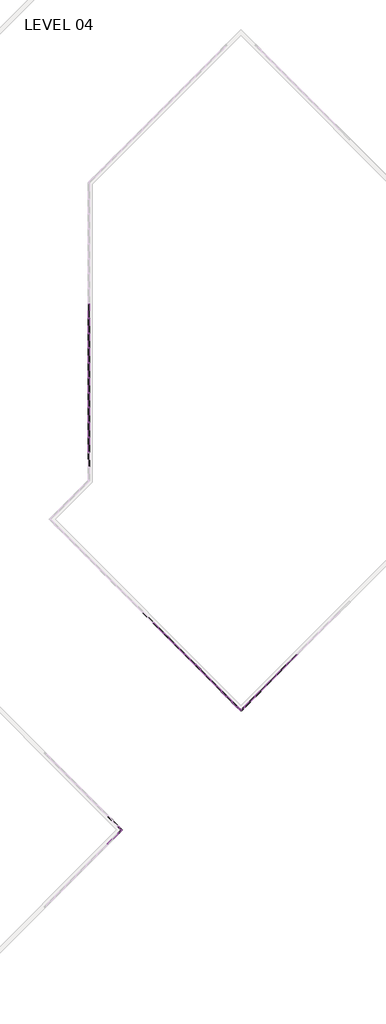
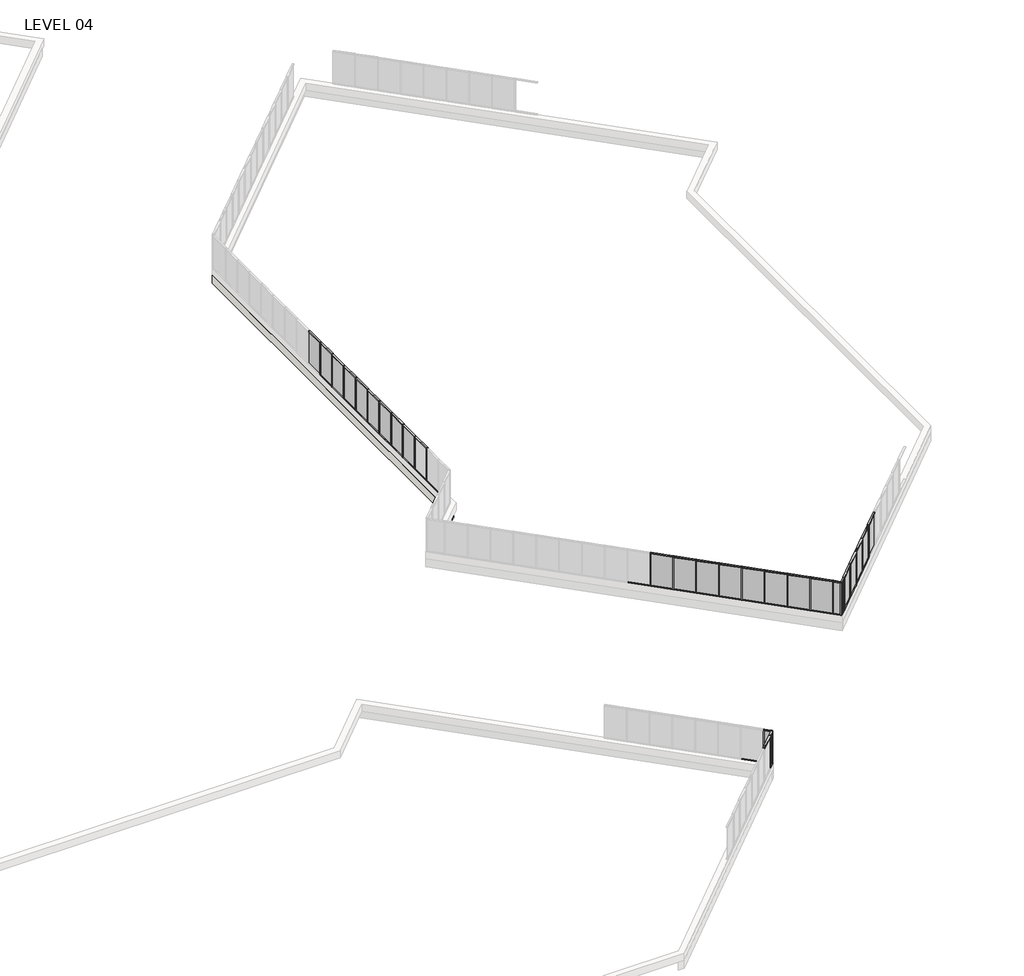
# One storey, part 10 of 17: 86 members, 26 plates, 1 wall.
"""IFC4 building model written with IfcOpenShell, lengths in millimetres."""

from ifc_helpers import new_model, si_unit, origin, place, context, project, spatial, faceted_brep, transform, mapped, element, save
from components import member_5247f267, member_e44af9ab, member_800970d4, member_ac5115e9, member_25b26a38, member_910c08c9, plate_c01932d8, plate_6d527a83, plate_67294edd

model = new_model("IFC4")

# Units and contexts
model_context = context("Model", 3, world=origin())
ifc_project = project(units=[si_unit("LENGTHUNIT", "METRE", prefix="MILLI")], contexts=[model_context])

# Site, building, storey
site = spatial("IfcSite", under=ifc_project)
building = spatial("IfcBuilding", under=site)
storey = spatial("IfcBuildingStorey", under=building, Name="LEVEL 04", Elevation=12052.3)

# Members
placement = place(None, origin())
member_shape = member_5247f267(model_context)
element("IfcMember", 1, ObjectType="Rectangular Mullion : 2\" x 4.5\" rectangular", at=placement, inside=storey, context=model_context, shape_type="MappedRepresentation", body=[
    mapped(member_shape, transform((64227.3404937, 10894.4485141, 12052.3), x_axis=(0.0, 0.0, -1.0), y_axis=(0.7071067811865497, 0.7071067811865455, 0.0), z_axis=(0.7071067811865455, -0.7071067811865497, 0.0))),
])
element("IfcMember", 2, ObjectType="Rectangular Mullion : 2\" x 4.5\" rectangular", at=placement, inside=storey, context=model_context, shape_type="MappedRepresentation", body=[
    mapped(member_shape, transform((64227.5191663, 10093.8459028, 14643.1), x_axis=(0.0, 0.0, 1.0), y_axis=(0.7071067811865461, -0.7071067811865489, 0.0), z_axis=(0.7071067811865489, 0.7071067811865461, 0.0))),
])
member_2_shape = member_e44af9ab(model_context)
element("IfcMember", 3, ObjectType="Rectangular Mullion : 2\" x 4.5\" rectangular", at=placement, inside=storey, context=model_context, shape_type="MappedRepresentation", body=[
    mapped(member_2_shape, transform((64245.4796786, 10111.8064151, 12052.3), x_axis=(0.7071067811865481, 0.7071067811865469, 0.0), y_axis=(0.7071067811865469, -0.7071067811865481, 0.0), z_axis=(0.0, 0.0, -1.0))),
])
element("IfcMember", 4, ObjectType="Rectangular Mullion : 2\" x 4.5\" rectangular", at=placement, inside=storey, context=model_context, shape_type="MappedRepresentation", body=[
    mapped(member_2_shape, transform((64245.3010059, 10876.4880018, 12052.3), x_axis=(-0.7071067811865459, 0.7071067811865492, 0.0), y_axis=(0.7071067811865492, 0.7071067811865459, 0.0), z_axis=(0.0, 0.0, -1.0))),
])
member_3_shape = member_800970d4(model_context)
element("IfcMember", 5, ObjectType="Rectangular Mullion : 2\" x 4.5\" rectangular", at=placement, inside=storey, context=model_context, shape_type="MappedRepresentation", body=[
    mapped(member_3_shape, transform((64627.7311356, 10494.0578721, 12052.3), x_axis=(0.7071067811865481, 0.7071067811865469, 0.0), y_axis=(0.7071067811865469, -0.7071067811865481, 0.0), z_axis=(0.0, 0.0, -1.0))),
])
element("IfcMember", 6, ObjectType="Rectangular Mullion : 2\" x 4.5\" rectangular", at=placement, inside=storey, context=model_context, shape_type="MappedRepresentation", body=[
    mapped(member_3_shape, transform((64627.7311356, 10494.0578721, 14643.1), x_axis=(0.7071067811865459, -0.7071067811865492, 0.0), y_axis=(0.7071067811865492, 0.7071067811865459, 0.0), z_axis=(0.0, 0.0, 1.0))),
])
member_4_shape = member_ac5115e9(model_context)
element("IfcMember", 7, ObjectType="Rectangular Mullion : 2\" x 4.5\" rectangular", at=placement, inside=storey, context=model_context, shape_type="MappedRepresentation", body=[
    mapped(member_4_shape, transform((64591.8101111, 10458.1368476, 14643.1), x_axis=(0.0, 0.0, 1.0), y_axis=(0.7071067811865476, -0.7071067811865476, 0.0), z_axis=(0.7071067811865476, 0.7071067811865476, 0.0))),
])
element("IfcMember", 8, ObjectType="Rectangular Mullion : 2\" x 4.5\" rectangular", at=placement, inside=storey, context=model_context, shape_type="MappedRepresentation", body=[
    mapped(member_4_shape, transform((64263.4401908, 10129.7669273, 12052.3), x_axis=(0.0, 0.0, -1.0), y_axis=(0.7071067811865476, -0.7071067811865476, 0.0), z_axis=(-0.7071067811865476, -0.7071067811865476, 0.0))),
])
member_5_shape = member_25b26a38(model_context)
element("IfcMember", 9, ObjectType="Rectangular Mullion : 2\" x 4.5\" rectangular", at=placement, inside=storey, context=model_context, shape_type="MappedRepresentation", body=[
    mapped(member_5_shape, transform((64591.8101111, 10529.9788966, 12052.3), x_axis=(0.0, 0.0, -1.0), y_axis=(0.7071067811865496, 0.7071067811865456, 0.0), z_axis=(0.7071067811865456, -0.7071067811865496, 0.0))),
])
element("IfcMember", 10, ObjectType="Rectangular Mullion : 2\" x 4.5\" rectangular", at=placement, inside=storey, context=model_context, shape_type="MappedRepresentation", body=[
    mapped(member_5_shape, transform((64263.2615182, 10858.5274896, 14643.1), x_axis=(0.0, 0.0, 1.0), y_axis=(0.7071067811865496, 0.7071067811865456, 0.0), z_axis=(-0.7071067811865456, 0.7071067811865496, 0.0))),
])
element("IfcMember", 11, ObjectType="Rectangular Mullion : 2\" x 4.5\" rectangular", at=placement, inside=storey, context=model_context, shape_type="MappedRepresentation", body=[
    mapped(member_shape, transform((78327.7024202, 24194.0291567, 14643.1), x_axis=(0.0, 0.0, 1.0), y_axis=(-0.7071067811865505, 0.7071067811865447, 0.0), z_axis=(-0.7071067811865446, -0.7071067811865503, 0.0))),
])
element("IfcMember", 12, ObjectType="Rectangular Mullion : 2\" x 4.5\" rectangular", at=placement, inside=storey, context=model_context, shape_type="MappedRepresentation", body=[
    mapped(member_shape, transform((81560.5946238, 27426.9213603, 14643.1), x_axis=(0.0, 0.0, 1.0), y_axis=(-0.7071067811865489, 0.7071067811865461, 0.0), z_axis=(-0.7071067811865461, -0.7071067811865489, 0.0))),
])
element("IfcMember", 13, ObjectType="Rectangular Mullion : 2\" x 4.5\" rectangular", at=placement, inside=storey, context=model_context, shape_type="MappedRepresentation", body=[
    mapped(member_shape, transform((80482.9638893, 26349.2906258, 14643.1), x_axis=(0.0, 0.0, 1.0), y_axis=(-0.7071067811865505, 0.7071067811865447, 0.0), z_axis=(-0.7071067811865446, -0.7071067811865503, 0.0))),
])
element("IfcMember", 14, ObjectType="Rectangular Mullion : 2\" x 4.5\" rectangular", at=placement, inside=storey, context=model_context, shape_type="MappedRepresentation", body=[
    mapped(member_shape, transform((79405.3331548, 25271.6598913, 14643.1), x_axis=(0.0, 0.0, 1.0), y_axis=(-0.7071067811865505, 0.7071067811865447, 0.0), z_axis=(-0.7071067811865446, -0.7071067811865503, 0.0))),
])
element("IfcMember", 15, ObjectType="Rectangular Mullion : 2\" x 4.5\" rectangular", at=placement, inside=storey, context=model_context, shape_type="MappedRepresentation", body=[
    mapped(member_shape, transform((77250.0716857, 23116.3984222, 14643.1), x_axis=(0.0, 0.0, 1.0), y_axis=(-0.7071067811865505, 0.7071067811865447, 0.0), z_axis=(-0.7071067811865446, -0.7071067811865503, 0.0))),
])
element("IfcMember", 16, ObjectType="Rectangular Mullion : 2\" x 4.5\" rectangular", at=placement, inside=storey, context=model_context, shape_type="MappedRepresentation", body=[
    mapped(member_shape, transform((75407.7593644, 24158.2868049, 14643.1), x_axis=(0.0, 0.0, 1.0), y_axis=(0.7071067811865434, 0.7071067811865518, 0.0), z_axis=(-0.7071067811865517, 0.7071067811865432, 0.0))),
])
element("IfcMember", 17, ObjectType="Rectangular Mullion : 2\" x 4.5\" rectangular", at=placement, inside=storey, context=model_context, shape_type="MappedRepresentation", body=[
    mapped(member_shape, transform((74330.1286299, 25235.9175394, 14643.1), x_axis=(0.0, 0.0, 1.0), y_axis=(0.7071067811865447, 0.7071067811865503, 0.0), z_axis=(-0.7071067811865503, 0.7071067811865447, 0.0))),
])
element("IfcMember", 18, ObjectType="Rectangular Mullion : 2\" x 4.5\" rectangular", at=placement, inside=storey, context=model_context, shape_type="MappedRepresentation", body=[
    mapped(member_shape, transform((73252.4978954, 26313.5482739, 14643.1), x_axis=(0.0, 0.0, 1.0), y_axis=(0.7071067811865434, 0.7071067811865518, 0.0), z_axis=(-0.7071067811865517, 0.7071067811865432, 0.0))),
])
element("IfcMember", 19, ObjectType="Rectangular Mullion : 2\" x 4.5\" rectangular", at=placement, inside=storey, context=model_context, shape_type="MappedRepresentation", body=[
    mapped(member_shape, transform((71097.2364263, 28468.809743, 14643.1), x_axis=(0.0, 0.0, 1.0), y_axis=(0.7071067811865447, 0.7071067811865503, 0.0), z_axis=(-0.7071067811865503, 0.7071067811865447, 0.0))),
])
element("IfcMember", 20, ObjectType="Rectangular Mullion : 2\" x 4.5\" rectangular", at=placement, inside=storey, context=model_context, shape_type="MappedRepresentation", body=[
    mapped(member_shape, transform((70019.6056918, 29546.4404775, 14643.1), x_axis=(0.0, 0.0, 1.0), y_axis=(0.7071067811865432, 0.7071067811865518, 0.0), z_axis=(-0.7071067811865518, 0.7071067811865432, 0.0))),
])
element("IfcMember", 21, ObjectType="Rectangular Mullion : 2\" x 4.5\" rectangular", at=placement, inside=storey, context=model_context, shape_type="MappedRepresentation", body=[
    mapped(member_shape, transform((68941.9749572, 30624.071212, 14643.1), x_axis=(0.0, 0.0, 1.0), y_axis=(0.7071067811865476, 0.7071067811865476, 0.0), z_axis=(-0.7071067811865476, 0.7071067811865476, 0.0))),
])
element("IfcMember", 22, ObjectType="Rectangular Mullion : 2\" x 4.5\" rectangular", at=placement, inside=storey, context=model_context, shape_type="MappedRepresentation", body=[
    mapped(member_shape, transform((67864.3442227, 31701.7019466, 14643.1), x_axis=(0.0, 0.0, 1.0), y_axis=(0.7071067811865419, 0.7071067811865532, 0.0), z_axis=(-0.7071067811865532, 0.7071067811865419, 0.0))),
])
element("IfcMember", 23, ObjectType="Rectangular Mullion : 2\" x 4.5\" rectangular", at=placement, inside=storey, context=model_context, shape_type="MappedRepresentation", body=[
    mapped(member_shape, transform((72174.8671608, 27391.1790085, 14643.1), x_axis=(0.0, 0.0, 1.0), y_axis=(0.7071067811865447, 0.7071067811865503, 0.0), z_axis=(-0.7071067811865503, 0.7071067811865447, 0.0))),
])
element("IfcMember", 24, ObjectType="Rectangular Mullion : 2\" x 4.5\" rectangular", at=placement, inside=storey, context=model_context, shape_type="MappedRepresentation", body=[
    mapped(member_shape, transform((61263.7847164, 62877.3675885, 14643.1), x_axis=(0.0, 0.0, 1.0), y_axis=(-1.0, 0.0, 0.0), z_axis=(0.0, -1.0, 0.0))),
])
element("IfcMember", 25, ObjectType="Rectangular Mullion : 2\" x 4.5\" rectangular", at=placement, inside=storey, context=model_context, shape_type="MappedRepresentation", body=[
    mapped(member_shape, transform((61263.7847164, 59829.3675885, 14643.1), x_axis=(0.0, 0.0, 1.0), y_axis=(-1.0, 0.0, 0.0), z_axis=(0.0, -1.0, 0.0))),
])
element("IfcMember", 26, ObjectType="Rectangular Mullion : 2\" x 4.5\" rectangular", at=placement, inside=storey, context=model_context, shape_type="MappedRepresentation", body=[
    mapped(member_shape, transform((61263.7847164, 58305.3675885, 14643.1), x_axis=(0.0, 0.0, 1.0), y_axis=(-1.0, 0.0, 0.0), z_axis=(0.0, -1.0, 0.0))),
])
element("IfcMember", 27, ObjectType="Rectangular Mullion : 2\" x 4.5\" rectangular", at=placement, inside=storey, context=model_context, shape_type="MappedRepresentation", body=[
    mapped(member_shape, transform((61263.7847164, 56781.3675885, 14643.1), x_axis=(0.0, 0.0, 1.0), y_axis=(-1.0, 0.0, 0.0), z_axis=(0.0, -1.0, 0.0))),
])
element("IfcMember", 28, ObjectType="Rectangular Mullion : 2\" x 4.5\" rectangular", at=placement, inside=storey, context=model_context, shape_type="MappedRepresentation", body=[
    mapped(member_shape, transform((61263.7847164, 55257.3675885, 14643.1), x_axis=(0.0, 0.0, 1.0), y_axis=(-1.0, 0.0, 0.0), z_axis=(0.0, -1.0, 0.0))),
])
element("IfcMember", 29, ObjectType="Rectangular Mullion : 2\" x 4.5\" rectangular", at=placement, inside=storey, context=model_context, shape_type="MappedRepresentation", body=[
    mapped(member_shape, transform((61263.7847164, 52209.3675885, 14643.1), x_axis=(0.0, 0.0, 1.0), y_axis=(-1.0, 0.0, 0.0), z_axis=(0.0, -1.0, 0.0))),
])
element("IfcMember", 30, ObjectType="Rectangular Mullion : 2\" x 4.5\" rectangular", at=placement, inside=storey, context=model_context, shape_type="MappedRepresentation", body=[
    mapped(member_shape, transform((61263.7847164, 50685.3675885, 14643.1), x_axis=(0.0, 0.0, 1.0), y_axis=(-1.0, 0.0, 0.0), z_axis=(0.0, -1.0, 0.0))),
])
element("IfcMember", 31, ObjectType="Rectangular Mullion : 2\" x 4.5\" rectangular", at=placement, inside=storey, context=model_context, shape_type="MappedRepresentation", body=[
    mapped(member_shape, transform((61263.7847164, 49161.3675885, 14643.1), x_axis=(0.0, 0.0, 1.0), y_axis=(-1.0, 0.0, 0.0), z_axis=(0.0, -1.0, 0.0))),
])
element("IfcMember", 32, ObjectType="Rectangular Mullion : 2\" x 4.5\" rectangular", at=placement, inside=storey, context=model_context, shape_type="MappedRepresentation", body=[
    mapped(member_shape, transform((61263.7847164, 53733.3675885, 14643.1), x_axis=(0.0, 0.0, 1.0), y_axis=(-1.0, 0.0, 0.0), z_axis=(0.0, -1.0, 0.0))),
])
element("IfcMember", 33, ObjectType="Rectangular Mullion : 2\" x 4.5\" rectangular", at=placement, inside=storey, context=model_context, shape_type="MappedRepresentation", body=[
    mapped(member_shape, transform((61263.7847164, 61353.3675885, 14643.1), x_axis=(0.0, 0.0, 1.0), y_axis=(-1.0, 0.0, 0.0), z_axis=(0.0, -1.0, 0.0))),
])
element("IfcMember", 34, ObjectType="Rectangular Mullion : 2\" x 4.5\" rectangular", at=placement, inside=storey, context=model_context, shape_type="MappedRepresentation", body=[
    mapped(member_shape, transform((78291.7813957, 24158.1081322, 12052.3), x_axis=(0.0, 0.0, -1.0), y_axis=(-0.7071067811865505, 0.7071067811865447, 0.0), z_axis=(0.7071067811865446, 0.7071067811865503, 0.0))),
])
element("IfcMember", 35, ObjectType="Rectangular Mullion : 2\" x 4.5\" rectangular", at=placement, inside=storey, context=model_context, shape_type="MappedRepresentation", body=[
    mapped(member_shape, transform((81524.6735993, 27391.0003358, 12052.3), x_axis=(0.0, 0.0, -1.0), y_axis=(-0.707106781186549, 0.7071067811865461, 0.0), z_axis=(0.7071067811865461, 0.707106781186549, 0.0))),
])
element("IfcMember", 36, ObjectType="Rectangular Mullion : 2\" x 4.5\" rectangular", at=placement, inside=storey, context=model_context, shape_type="MappedRepresentation", body=[
    mapped(member_shape, transform((80447.0428648, 26313.3696013, 12052.3), x_axis=(0.0, 0.0, -1.0), y_axis=(-0.7071067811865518, 0.7071067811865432, 0.0), z_axis=(0.7071067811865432, 0.7071067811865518, 0.0))),
])
element("IfcMember", 37, ObjectType="Rectangular Mullion : 2\" x 4.5\" rectangular", at=placement, inside=storey, context=model_context, shape_type="MappedRepresentation", body=[
    mapped(member_shape, transform((79369.4121303, 25235.7388668, 12052.3), x_axis=(0.0, 0.0, -1.0), y_axis=(-0.7071067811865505, 0.7071067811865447, 0.0), z_axis=(0.7071067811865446, 0.7071067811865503, 0.0))),
])
element("IfcMember", 38, ObjectType="Rectangular Mullion : 2\" x 4.5\" rectangular", at=placement, inside=storey, context=model_context, shape_type="MappedRepresentation", body=[
    mapped(member_shape, transform((75371.8383399, 24194.2078294, 12052.3), x_axis=(0.0, 0.0, -1.0), y_axis=(0.7071067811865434, 0.7071067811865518, 0.0), z_axis=(0.7071067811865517, -0.7071067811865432, 0.0))),
])
element("IfcMember", 39, ObjectType="Rectangular Mullion : 2\" x 4.5\" rectangular", at=placement, inside=storey, context=model_context, shape_type="MappedRepresentation", body=[
    mapped(member_shape, transform((74294.2076054, 25271.8385639, 12052.3), x_axis=(0.0, 0.0, -1.0), y_axis=(0.7071067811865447, 0.7071067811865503, 0.0), z_axis=(0.7071067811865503, -0.7071067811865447, 0.0))),
])
element("IfcMember", 40, ObjectType="Rectangular Mullion : 2\" x 4.5\" rectangular", at=placement, inside=storey, context=model_context, shape_type="MappedRepresentation", body=[
    mapped(member_shape, transform((73216.5768709, 26349.4692984, 12052.3), x_axis=(0.0, 0.0, -1.0), y_axis=(0.7071067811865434, 0.7071067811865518, 0.0), z_axis=(0.7071067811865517, -0.7071067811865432, 0.0))),
])
element("IfcMember", 41, ObjectType="Rectangular Mullion : 2\" x 4.5\" rectangular", at=placement, inside=storey, context=model_context, shape_type="MappedRepresentation", body=[
    mapped(member_shape, transform((71061.3154018, 28504.7307675, 12052.3), x_axis=(0.0, 0.0, -1.0), y_axis=(0.7071067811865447, 0.7071067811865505, 0.0), z_axis=(0.7071067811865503, -0.7071067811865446, 0.0))),
])
element("IfcMember", 42, ObjectType="Rectangular Mullion : 2\" x 4.5\" rectangular", at=placement, inside=storey, context=model_context, shape_type="MappedRepresentation", body=[
    mapped(member_shape, transform((69983.6846673, 29582.361502, 12052.3), x_axis=(0.0, 0.0, -1.0), y_axis=(0.7071067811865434, 0.7071067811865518, 0.0), z_axis=(0.7071067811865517, -0.7071067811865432, 0.0))),
])
element("IfcMember", 43, ObjectType="Rectangular Mullion : 2\" x 4.5\" rectangular", at=placement, inside=storey, context=model_context, shape_type="MappedRepresentation", body=[
    mapped(member_shape, transform((68906.0539328, 30659.9922365, 12052.3), x_axis=(0.0, 0.0, -1.0), y_axis=(0.7071067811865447, 0.7071067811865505, 0.0), z_axis=(0.7071067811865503, -0.7071067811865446, 0.0))),
])
element("IfcMember", 44, ObjectType="Rectangular Mullion : 2\" x 4.5\" rectangular", at=placement, inside=storey, context=model_context, shape_type="MappedRepresentation", body=[
    mapped(member_shape, transform((72138.9461363, 27427.1000329, 12052.3), x_axis=(0.0, 0.0, -1.0), y_axis=(0.7071067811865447, 0.7071067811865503, 0.0), z_axis=(0.7071067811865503, -0.7071067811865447, 0.0))),
])
element("IfcMember", 45, ObjectType="Rectangular Mullion : 2\" x 4.5\" rectangular", at=placement, inside=storey, context=model_context, shape_type="MappedRepresentation", body=[
    mapped(member_shape, transform((76449.4690745, 23116.5770948, 12052.3), x_axis=(0.0, 0.0, -1.0), y_axis=(0.7071067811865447, 0.7071067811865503, 0.0), z_axis=(0.7071067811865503, -0.7071067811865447, 0.0))),
])
element("IfcMember", 46, ObjectType="Rectangular Mullion : 2\" x 4.5\" rectangular", at=placement, inside=storey, context=model_context, shape_type="MappedRepresentation", body=[
    mapped(member_shape, transform((61263.7847164, 62826.5675885, 12052.3), x_axis=(0.0, 0.0, -1.0), y_axis=(-1.0, 0.0, 0.0), z_axis=(0.0, 1.0, 0.0))),
])
element("IfcMember", 47, ObjectType="Rectangular Mullion : 2\" x 4.5\" rectangular", at=placement, inside=storey, context=model_context, shape_type="MappedRepresentation", body=[
    mapped(member_shape, transform((61263.7847164, 59778.5675885, 12052.3), x_axis=(0.0, 0.0, -1.0), y_axis=(-1.0, 0.0, 0.0), z_axis=(0.0, 1.0, 0.0))),
])
element("IfcMember", 48, ObjectType="Rectangular Mullion : 2\" x 4.5\" rectangular", at=placement, inside=storey, context=model_context, shape_type="MappedRepresentation", body=[
    mapped(member_shape, transform((61263.7847164, 58254.5675885, 12052.3), x_axis=(0.0, 0.0, -1.0), y_axis=(-1.0, 0.0, 0.0), z_axis=(0.0, 1.0, 0.0))),
])
element("IfcMember", 49, ObjectType="Rectangular Mullion : 2\" x 4.5\" rectangular", at=placement, inside=storey, context=model_context, shape_type="MappedRepresentation", body=[
    mapped(member_shape, transform((61263.7847164, 56730.5675885, 12052.3), x_axis=(0.0, 0.0, -1.0), y_axis=(-1.0, 0.0, 0.0), z_axis=(0.0, 1.0, 0.0))),
])
element("IfcMember", 50, ObjectType="Rectangular Mullion : 2\" x 4.5\" rectangular", at=placement, inside=storey, context=model_context, shape_type="MappedRepresentation", body=[
    mapped(member_shape, transform((61263.7847164, 55206.5675885, 12052.3), x_axis=(0.0, 0.0, -1.0), y_axis=(-1.0, 0.0, 0.0), z_axis=(0.0, 1.0, 0.0))),
])
element("IfcMember", 51, ObjectType="Rectangular Mullion : 2\" x 4.5\" rectangular", at=placement, inside=storey, context=model_context, shape_type="MappedRepresentation", body=[
    mapped(member_shape, transform((61263.7847164, 52158.5675885, 12052.3), x_axis=(0.0, 0.0, -1.0), y_axis=(-1.0, 0.0, 0.0), z_axis=(0.0, 1.0, 0.0))),
])
element("IfcMember", 52, ObjectType="Rectangular Mullion : 2\" x 4.5\" rectangular", at=placement, inside=storey, context=model_context, shape_type="MappedRepresentation", body=[
    mapped(member_shape, transform((61263.7847164, 50634.5675885, 12052.3), x_axis=(0.0, 0.0, -1.0), y_axis=(-1.0, 0.0, 0.0), z_axis=(0.0, 1.0, 0.0))),
])
element("IfcMember", 53, ObjectType="Rectangular Mullion : 2\" x 4.5\" rectangular", at=placement, inside=storey, context=model_context, shape_type="MappedRepresentation", body=[
    mapped(member_shape, transform((61263.7847164, 49110.5675885, 12052.3), x_axis=(0.0, 0.0, -1.0), y_axis=(-1.0, 0.0, 0.0), z_axis=(0.0, 1.0, 0.0))),
])
element("IfcMember", 54, ObjectType="Rectangular Mullion : 2\" x 4.5\" rectangular", at=placement, inside=storey, context=model_context, shape_type="MappedRepresentation", body=[
    mapped(member_shape, transform((61263.7847164, 53682.5675885, 12052.3), x_axis=(0.0, 0.0, -1.0), y_axis=(-1.0, 0.0, 0.0), z_axis=(0.0, 1.0, 0.0))),
])
element("IfcMember", 55, ObjectType="Rectangular Mullion : 2\" x 4.5\" rectangular", at=placement, inside=storey, context=model_context, shape_type="MappedRepresentation", body=[
    mapped(member_shape, transform((61263.7847164, 61302.5675885, 12052.3), x_axis=(0.0, 0.0, -1.0), y_axis=(-1.0, 0.0, 0.0), z_axis=(0.0, 1.0, 0.0))),
])
element("IfcMember", 56, ObjectType="Rectangular Mullion : 2\" x 4.5\" rectangular", at=placement, inside=storey, context=model_context, shape_type="MappedRepresentation", body=[
    mapped(member_2_shape, transform((78309.741908, 24176.0686445, 12052.3), x_axis=(-0.7071067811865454, -0.7071067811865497, 0.0), y_axis=(-0.7071067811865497, 0.7071067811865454, 0.0), z_axis=(0.0, 0.0, -1.0))),
])
element("IfcMember", 57, ObjectType="Rectangular Mullion : 2\" x 4.5\" rectangular", at=placement, inside=storey, context=model_context, shape_type="MappedRepresentation", body=[
    mapped(member_2_shape, transform((81542.6341116, 27408.9608481, 12052.3), x_axis=(-0.7071067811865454, -0.7071067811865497, 0.0), y_axis=(-0.7071067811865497, 0.7071067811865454, 0.0), z_axis=(0.0, 0.0, -1.0))),
])
element("IfcMember", 58, ObjectType="Rectangular Mullion : 2\" x 4.5\" rectangular", at=placement, inside=storey, context=model_context, shape_type="MappedRepresentation", body=[
    mapped(member_2_shape, transform((80465.003377, 26331.3301135, 12052.3), x_axis=(-0.7071067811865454, -0.7071067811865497, 0.0), y_axis=(-0.7071067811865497, 0.7071067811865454, 0.0), z_axis=(0.0, 0.0, -1.0))),
])
element("IfcMember", 59, ObjectType="Rectangular Mullion : 2\" x 4.5\" rectangular", at=placement, inside=storey, context=model_context, shape_type="MappedRepresentation", body=[
    mapped(member_2_shape, transform((79387.3726425, 25253.699379, 12052.3), x_axis=(-0.7071067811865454, -0.7071067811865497, 0.0), y_axis=(-0.7071067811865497, 0.7071067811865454, 0.0), z_axis=(0.0, 0.0, -1.0))),
])
element("IfcMember", 60, ObjectType="Rectangular Mullion : 2\" x 4.5\" rectangular", at=placement, inside=storey, context=model_context, shape_type="MappedRepresentation", body=[
    mapped(member_2_shape, transform((77232.1111735, 23098.43791, 12052.3), x_axis=(-0.7071067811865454, -0.7071067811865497, 0.0), y_axis=(-0.7071067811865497, 0.7071067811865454, 0.0), z_axis=(0.0, 0.0, -1.0))),
])
element("IfcMember", 61, ObjectType="Rectangular Mullion : 2\" x 4.5\" rectangular", at=placement, inside=storey, context=model_context, shape_type="MappedRepresentation", body=[
    mapped(member_2_shape, transform((75389.7988522, 24176.2473171, 12052.3), x_axis=(-0.7071067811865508, 0.7071067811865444, 0.0), y_axis=(0.7071067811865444, 0.7071067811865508, 0.0), z_axis=(0.0, 0.0, -1.0))),
])
element("IfcMember", 62, ObjectType="Rectangular Mullion : 2\" x 4.5\" rectangular", at=placement, inside=storey, context=model_context, shape_type="MappedRepresentation", body=[
    mapped(member_2_shape, transform((74312.1681176, 25253.8780517, 12052.3), x_axis=(-0.7071067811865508, 0.7071067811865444, 0.0), y_axis=(0.7071067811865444, 0.7071067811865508, 0.0), z_axis=(0.0, 0.0, -1.0))),
])
element("IfcMember", 63, ObjectType="Rectangular Mullion : 2\" x 4.5\" rectangular", at=placement, inside=storey, context=model_context, shape_type="MappedRepresentation", body=[
    mapped(member_2_shape, transform((73234.5373831, 26331.5087862, 12052.3), x_axis=(-0.7071067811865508, 0.7071067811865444, 0.0), y_axis=(0.7071067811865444, 0.7071067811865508, 0.0), z_axis=(0.0, 0.0, -1.0))),
])
element("IfcMember", 64, ObjectType="Rectangular Mullion : 2\" x 4.5\" rectangular", at=placement, inside=storey, context=model_context, shape_type="MappedRepresentation", body=[
    mapped(member_2_shape, transform((71079.2759141, 28486.7702552, 12052.3), x_axis=(-0.7071067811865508, 0.7071067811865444, 0.0), y_axis=(0.7071067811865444, 0.7071067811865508, 0.0), z_axis=(0.0, 0.0, -1.0))),
])
element("IfcMember", 65, ObjectType="Rectangular Mullion : 2\" x 4.5\" rectangular", at=placement, inside=storey, context=model_context, shape_type="MappedRepresentation", body=[
    mapped(member_2_shape, transform((70001.6451795, 29564.4009898, 12052.3), x_axis=(-0.7071067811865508, 0.7071067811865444, 0.0), y_axis=(0.7071067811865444, 0.7071067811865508, 0.0), z_axis=(0.0, 0.0, -1.0))),
])
element("IfcMember", 66, ObjectType="Rectangular Mullion : 2\" x 4.5\" rectangular", at=placement, inside=storey, context=model_context, shape_type="MappedRepresentation", body=[
    mapped(member_2_shape, transform((68924.014445, 30642.0317243, 12052.3), x_axis=(-0.7071067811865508, 0.7071067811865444, 0.0), y_axis=(0.7071067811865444, 0.7071067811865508, 0.0), z_axis=(0.0, 0.0, -1.0))),
])
element("IfcMember", 67, ObjectType="Rectangular Mullion : 2\" x 4.5\" rectangular", at=placement, inside=storey, context=model_context, shape_type="MappedRepresentation", body=[
    mapped(member_2_shape, transform((67846.3837105, 31719.6624588, 12052.3), x_axis=(-0.7071067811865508, 0.7071067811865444, 0.0), y_axis=(0.7071067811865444, 0.7071067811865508, 0.0), z_axis=(0.0, 0.0, -1.0))),
])
element("IfcMember", 68, ObjectType="Rectangular Mullion : 2\" x 4.5\" rectangular", at=placement, inside=storey, context=model_context, shape_type="MappedRepresentation", body=[
    mapped(member_2_shape, transform((72156.9066486, 27409.1395207, 12052.3), x_axis=(-0.7071067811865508, 0.7071067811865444, 0.0), y_axis=(0.7071067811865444, 0.7071067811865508, 0.0), z_axis=(0.0, 0.0, -1.0))),
])
element("IfcMember", 69, ObjectType="Rectangular Mullion : 2\" x 4.5\" rectangular", at=placement, inside=storey, context=model_context, shape_type="MappedRepresentation", body=[
    mapped(member_2_shape, transform((76467.4295867, 23098.6165826, 12052.3), x_axis=(-0.7071067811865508, 0.7071067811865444, 0.0), y_axis=(0.7071067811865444, 0.7071067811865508, 0.0), z_axis=(0.0, 0.0, -1.0))),
])
element("IfcMember", 70, ObjectType="Rectangular Mullion : 2\" x 4.5\" rectangular", at=placement, inside=storey, context=model_context, shape_type="MappedRepresentation", body=[
    mapped(member_2_shape, transform((61263.7847164, 62851.9675885, 12052.3), x_axis=(0.0, -1.0, 0.0), y_axis=(-1.0, 0.0, 0.0), z_axis=(0.0, 0.0, -1.0))),
])
element("IfcMember", 71, ObjectType="Rectangular Mullion : 2\" x 4.5\" rectangular", at=placement, inside=storey, context=model_context, shape_type="MappedRepresentation", body=[
    mapped(member_2_shape, transform((61263.7847164, 59803.9675885, 12052.3), x_axis=(0.0, -1.0, 0.0), y_axis=(-1.0, 0.0, 0.0), z_axis=(0.0, 0.0, -1.0))),
])
element("IfcMember", 72, ObjectType="Rectangular Mullion : 2\" x 4.5\" rectangular", at=placement, inside=storey, context=model_context, shape_type="MappedRepresentation", body=[
    mapped(member_2_shape, transform((61263.7847164, 58279.9675885, 12052.3), x_axis=(0.0, -1.0, 0.0), y_axis=(-1.0, 0.0, 0.0), z_axis=(0.0, 0.0, -1.0))),
])
element("IfcMember", 73, ObjectType="Rectangular Mullion : 2\" x 4.5\" rectangular", at=placement, inside=storey, context=model_context, shape_type="MappedRepresentation", body=[
    mapped(member_2_shape, transform((61263.7847164, 56755.9675885, 12052.3), x_axis=(0.0, -1.0, 0.0), y_axis=(-1.0, 0.0, 0.0), z_axis=(0.0, 0.0, -1.0))),
])
element("IfcMember", 74, ObjectType="Rectangular Mullion : 2\" x 4.5\" rectangular", at=placement, inside=storey, context=model_context, shape_type="MappedRepresentation", body=[
    mapped(member_2_shape, transform((61263.7847164, 55231.9675885, 12052.3), x_axis=(0.0, -1.0, 0.0), y_axis=(-1.0, 0.0, 0.0), z_axis=(0.0, 0.0, -1.0))),
])
element("IfcMember", 75, ObjectType="Rectangular Mullion : 2\" x 4.5\" rectangular", at=placement, inside=storey, context=model_context, shape_type="MappedRepresentation", body=[
    mapped(member_2_shape, transform((61263.7847164, 52183.9675885, 12052.3), x_axis=(0.0, -1.0, 0.0), y_axis=(-1.0, 0.0, 0.0), z_axis=(0.0, 0.0, -1.0))),
])
element("IfcMember", 76, ObjectType="Rectangular Mullion : 2\" x 4.5\" rectangular", at=placement, inside=storey, context=model_context, shape_type="MappedRepresentation", body=[
    mapped(member_2_shape, transform((61263.7847164, 50659.9675885, 12052.3), x_axis=(0.0, -1.0, 0.0), y_axis=(-1.0, 0.0, 0.0), z_axis=(0.0, 0.0, -1.0))),
])
element("IfcMember", 77, ObjectType="Rectangular Mullion : 2\" x 4.5\" rectangular", at=placement, inside=storey, context=model_context, shape_type="MappedRepresentation", body=[
    mapped(member_2_shape, transform((61263.7847164, 49135.9675885, 12052.3), x_axis=(0.0, -1.0, 0.0), y_axis=(-1.0, 0.0, 0.0), z_axis=(0.0, 0.0, -1.0))),
])
element("IfcMember", 78, ObjectType="Rectangular Mullion : 2\" x 4.5\" rectangular", at=placement, inside=storey, context=model_context, shape_type="MappedRepresentation", body=[
    mapped(member_2_shape, transform((61263.7847164, 53707.9675885, 12052.3), x_axis=(0.0, -1.0, 0.0), y_axis=(-1.0, 0.0, 0.0), z_axis=(0.0, 0.0, -1.0))),
])
element("IfcMember", 79, ObjectType="Rectangular Mullion : 2\" x 4.5\" rectangular", at=placement, inside=storey, context=model_context, shape_type="MappedRepresentation", body=[
    mapped(member_2_shape, transform((61263.7847164, 61327.9675885, 12052.3), x_axis=(0.0, -1.0, 0.0), y_axis=(-1.0, 0.0, 0.0), z_axis=(0.0, 0.0, -1.0))),
])
element("IfcMember", 80, ObjectType="Rectangular Mullion : 2\" x 4.5\" rectangular", at=placement, inside=storey, context=model_context, shape_type="MappedRepresentation", body=[
    mapped(member_3_shape, transform((76849.8597164, 22716.1864529, 12052.3), x_axis=(-0.7071067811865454, -0.7071067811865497, 0.0), y_axis=(-0.7071067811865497, 0.7071067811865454, 0.0), z_axis=(0.0, 0.0, -1.0))),
])
element("IfcMember", 81, ObjectType="Rectangular Mullion : 2\" x 4.5\" rectangular", at=placement, inside=storey, context=model_context, shape_type="MappedRepresentation", body=[
    mapped(member_3_shape, transform((76849.8597164, 22716.1864529, 14643.1), x_axis=(0.7071067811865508, -0.7071067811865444, 0.0), y_axis=(0.7071067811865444, 0.7071067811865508, 0.0), z_axis=(0.0, 0.0, 1.0))),
])
element("IfcMember", 82, ObjectType="Rectangular Mullion : 2\" x 4.5\" rectangular", at=placement, inside=storey, context=model_context, shape_type="MappedRepresentation", body=[
    mapped(member_5_shape, transform((76485.3900989, 23080.6560704, 14643.1), x_axis=(0.0, 0.0, 1.0), y_axis=(0.7071067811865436, 0.7071067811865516, 0.0), z_axis=(-0.7071067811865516, 0.7071067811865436, 0.0))),
])
element("IfcMember", 83, ObjectType="Rectangular Mullion : 2\" x 4.5\" rectangular", at=placement, inside=storey, context=model_context, shape_type="MappedRepresentation", body=[
    mapped(member_5_shape, transform((76813.9386919, 22752.1074774, 12052.3), x_axis=(0.0, 0.0, -1.0), y_axis=(0.7071067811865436, 0.7071067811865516, 0.0), z_axis=(0.7071067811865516, -0.7071067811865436, 0.0))),
])
element("IfcMember", 84, ObjectType="Rectangular Mullion : 2\" x 4.5\" rectangular", at=placement, inside=storey, context=model_context, shape_type="MappedRepresentation", body=[
    mapped(member_4_shape, transform((76885.7807409, 22752.1074774, 14643.1), x_axis=(0.0, 0.0, 1.0), y_axis=(-0.7071067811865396, 0.7071067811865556, 0.0), z_axis=(-0.7071067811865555, -0.7071067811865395, 0.0))),
])
element("IfcMember", 85, ObjectType="Rectangular Mullion : 2\" x 4.5\" rectangular", at=placement, inside=storey, context=model_context, shape_type="MappedRepresentation", body=[
    mapped(member_4_shape, transform((77214.1506612, 23080.4773977, 12052.3), x_axis=(0.0, 0.0, -1.0), y_axis=(-0.7071067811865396, 0.7071067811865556, 0.0), z_axis=(0.7071067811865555, 0.7071067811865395, 0.0))),
])
member_6_shape = member_910c08c9(model_context)
element("IfcMember", 86, ObjectType="Rectangular Mullion : 2\" x 4.5\" rectangular", at=placement, inside=storey, context=model_context, shape_type="MappedRepresentation", body=[
    mapped(member_6_shape, transform((67828.4231982, 31737.6229711, 12052.3), x_axis=(0.0, 0.0, -1.0), y_axis=(0.7071067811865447, 0.7071067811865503, 0.0), z_axis=(0.7071067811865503, -0.7071067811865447, 0.0))),
])

# Plates
plate_shape = plate_c01932d8(model_context)
element("IfcPlate", 87, ObjectType="System Panel : 1/4\" Glass", at=placement, inside=storey, context=model_context, shape_type="MappedRepresentation", body=[
    mapped(plate_shape, transform((64427.625151, 10293.9518875, 12103.1), x_axis=(0.7071067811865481, 0.7071067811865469, 0.0), y_axis=(-0.7071067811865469, 0.7071067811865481, 0.0), z_axis=(0.0, 0.0, 1.0))),
])
plate_2_shape = plate_6d527a83(model_context)
element("IfcPlate", 88, ObjectType="System Panel : 1/4\" Glass", at=placement, inside=storey, context=model_context, shape_type="MappedRepresentation", body=[
    mapped(plate_2_shape, transform((64427.5358147, 10694.2531931, 12103.1), x_axis=(-0.7071067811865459, 0.7071067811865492, 0.0), y_axis=(-0.7071067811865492, -0.7071067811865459, 0.0), z_axis=(0.0, 0.0, 1.0))),
])
plate_3_shape = plate_67294edd(model_context)
element("IfcPlate", 89, ObjectType="System Panel : 1/4\" Glass", at=placement, inside=storey, context=model_context, shape_type="MappedRepresentation", body=[
    mapped(plate_3_shape, transform((77770.9265407, 23637.2532772, 12103.1), x_axis=(-0.7071067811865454, -0.7071067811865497, 0.0), y_axis=(0.7071067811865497, -0.7071067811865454, 0.0), z_axis=(0.0, 0.0, 1.0))),
])
element("IfcPlate", 90, ObjectType="System Panel : 1/4\" Glass", at=placement, inside=storey, context=model_context, shape_type="MappedRepresentation", body=[
    mapped(plate_3_shape, transform((81003.8187443, 26870.1454808, 12103.1), x_axis=(-0.7071067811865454, -0.7071067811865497, 0.0), y_axis=(0.7071067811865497, -0.7071067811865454, 0.0), z_axis=(0.0, 0.0, 1.0))),
])
element("IfcPlate", 91, ObjectType="System Panel : 1/4\" Glass", at=placement, inside=storey, context=model_context, shape_type="MappedRepresentation", body=[
    mapped(plate_3_shape, transform((82081.4494788, 27947.7762153, 12103.1), x_axis=(-0.7071067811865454, -0.7071067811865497, 0.0), y_axis=(0.7071067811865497, -0.7071067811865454, 0.0), z_axis=(0.0, 0.0, 1.0))),
])
element("IfcPlate", 92, ObjectType="System Panel : 1/4\" Glass", at=placement, inside=storey, context=model_context, shape_type="MappedRepresentation", body=[
    mapped(plate_3_shape, transform((79926.1880098, 25792.5147463, 12103.1), x_axis=(-0.7071067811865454, -0.7071067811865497, 0.0), y_axis=(0.7071067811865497, -0.7071067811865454, 0.0), z_axis=(0.0, 0.0, 1.0))),
])
element("IfcPlate", 93, ObjectType="System Panel : 1/4\" Glass", at=placement, inside=storey, context=model_context, shape_type="MappedRepresentation", body=[
    mapped(plate_3_shape, transform((78848.5572753, 24714.8840117, 12103.1), x_axis=(-0.7071067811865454, -0.7071067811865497, 0.0), y_axis=(0.7071067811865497, -0.7071067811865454, 0.0), z_axis=(0.0, 0.0, 1.0))),
])
element("IfcPlate", 94, ObjectType="System Panel : 1/4\" Glass", at=placement, inside=storey, context=model_context, shape_type="MappedRepresentation", body=[
    mapped(plate_3_shape, transform((74850.9834849, 24715.0626844, 12103.1), x_axis=(-0.7071067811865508, 0.7071067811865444, 0.0), y_axis=(-0.7071067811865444, -0.7071067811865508, 0.0), z_axis=(0.0, 0.0, 1.0))),
])
element("IfcPlate", 95, ObjectType="System Panel : 1/4\" Glass", at=placement, inside=storey, context=model_context, shape_type="MappedRepresentation", body=[
    mapped(plate_3_shape, transform((73773.3527504, 25792.6934189, 12103.1), x_axis=(-0.7071067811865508, 0.7071067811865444, 0.0), y_axis=(-0.7071067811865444, -0.7071067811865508, 0.0), z_axis=(0.0, 0.0, 1.0))),
])
element("IfcPlate", 96, ObjectType="System Panel : 1/4\" Glass", at=placement, inside=storey, context=model_context, shape_type="MappedRepresentation", body=[
    mapped(plate_3_shape, transform((72695.7220159, 26870.3241534, 12103.1), x_axis=(-0.7071067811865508, 0.7071067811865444, 0.0), y_axis=(-0.7071067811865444, -0.7071067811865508, 0.0), z_axis=(0.0, 0.0, 1.0))),
])
element("IfcPlate", 97, ObjectType="System Panel : 1/4\" Glass", at=placement, inside=storey, context=model_context, shape_type="MappedRepresentation", body=[
    mapped(plate_3_shape, transform((70540.4605468, 29025.5856225, 12103.1), x_axis=(-0.7071067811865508, 0.7071067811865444, 0.0), y_axis=(-0.7071067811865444, -0.7071067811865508, 0.0), z_axis=(0.0, 0.0, 1.0))),
])
element("IfcPlate", 98, ObjectType="System Panel : 1/4\" Glass", at=placement, inside=storey, context=model_context, shape_type="MappedRepresentation", body=[
    mapped(plate_3_shape, transform((69462.8298123, 30103.216357, 12103.1), x_axis=(-0.7071067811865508, 0.7071067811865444, 0.0), y_axis=(-0.7071067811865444, -0.7071067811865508, 0.0), z_axis=(0.0, 0.0, 1.0))),
])
element("IfcPlate", 99, ObjectType="System Panel : 1/4\" Glass", at=placement, inside=storey, context=model_context, shape_type="MappedRepresentation", body=[
    mapped(plate_3_shape, transform((68385.1990777, 31180.8470916, 12103.1), x_axis=(-0.7071067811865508, 0.7071067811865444, 0.0), y_axis=(-0.7071067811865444, -0.7071067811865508, 0.0), z_axis=(0.0, 0.0, 1.0))),
])
element("IfcPlate", 100, ObjectType="System Panel : 1/4\" Glass", at=placement, inside=storey, context=model_context, shape_type="MappedRepresentation", body=[
    mapped(plate_3_shape, transform((71618.0912813, 27947.954888, 12103.1), x_axis=(-0.7071067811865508, 0.7071067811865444, 0.0), y_axis=(-0.7071067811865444, -0.7071067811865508, 0.0), z_axis=(0.0, 0.0, 1.0))),
])
element("IfcPlate", 101, ObjectType="System Panel : 1/4\" Glass", at=placement, inside=storey, context=model_context, shape_type="MappedRepresentation", body=[
    mapped(plate_3_shape, transform((75928.6142194, 23637.4319499, 12103.1), x_axis=(-0.7071067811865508, 0.7071067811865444, 0.0), y_axis=(-0.7071067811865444, -0.7071067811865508, 0.0), z_axis=(0.0, 0.0, 1.0))),
])
element("IfcPlate", 102, ObjectType="System Panel : 1/4\" Glass", at=placement, inside=storey, context=model_context, shape_type="MappedRepresentation", body=[
    mapped(plate_3_shape, transform((61263.7847164, 63613.9675885, 12103.1), x_axis=(0.0, -1.0, 0.0), y_axis=(1.0, 0.0, 0.0), z_axis=(0.0, 0.0, 1.0))),
])
element("IfcPlate", 103, ObjectType="System Panel : 1/4\" Glass", at=placement, inside=storey, context=model_context, shape_type="MappedRepresentation", body=[
    mapped(plate_3_shape, transform((61263.7847164, 62089.9675885, 12103.1), x_axis=(0.0, -1.0, 0.0), y_axis=(1.0, 0.0, 0.0), z_axis=(0.0, 0.0, 1.0))),
])
element("IfcPlate", 104, ObjectType="System Panel : 1/4\" Glass", at=placement, inside=storey, context=model_context, shape_type="MappedRepresentation", body=[
    mapped(plate_3_shape, transform((61263.7847164, 59041.9675885, 12103.1), x_axis=(0.0, -1.0, 0.0), y_axis=(1.0, 0.0, 0.0), z_axis=(0.0, 0.0, 1.0))),
])
element("IfcPlate", 105, ObjectType="System Panel : 1/4\" Glass", at=placement, inside=storey, context=model_context, shape_type="MappedRepresentation", body=[
    mapped(plate_3_shape, transform((61263.7847164, 57517.9675885, 12103.1), x_axis=(0.0, -1.0, 0.0), y_axis=(1.0, 0.0, 0.0), z_axis=(0.0, 0.0, 1.0))),
])
element("IfcPlate", 106, ObjectType="System Panel : 1/4\" Glass", at=placement, inside=storey, context=model_context, shape_type="MappedRepresentation", body=[
    mapped(plate_3_shape, transform((61263.7847164, 55993.9675885, 12103.1), x_axis=(0.0, -1.0, 0.0), y_axis=(1.0, 0.0, 0.0), z_axis=(0.0, 0.0, 1.0))),
])
element("IfcPlate", 107, ObjectType="System Panel : 1/4\" Glass", at=placement, inside=storey, context=model_context, shape_type="MappedRepresentation", body=[
    mapped(plate_3_shape, transform((61263.7847164, 54469.9675885, 12103.1), x_axis=(0.0, -1.0, 0.0), y_axis=(1.0, 0.0, 0.0), z_axis=(0.0, 0.0, 1.0))),
])
element("IfcPlate", 108, ObjectType="System Panel : 1/4\" Glass", at=placement, inside=storey, context=model_context, shape_type="MappedRepresentation", body=[
    mapped(plate_3_shape, transform((61263.7847164, 51421.9675885, 12103.1), x_axis=(0.0, -1.0, 0.0), y_axis=(1.0, 0.0, 0.0), z_axis=(0.0, 0.0, 1.0))),
])
element("IfcPlate", 109, ObjectType="System Panel : 1/4\" Glass", at=placement, inside=storey, context=model_context, shape_type="MappedRepresentation", body=[
    mapped(plate_3_shape, transform((61263.7847164, 52945.9675885, 12103.1), x_axis=(0.0, -1.0, 0.0), y_axis=(1.0, 0.0, 0.0), z_axis=(0.0, 0.0, 1.0))),
])
element("IfcPlate", 110, ObjectType="System Panel : 1/4\" Glass", at=placement, inside=storey, context=model_context, shape_type="MappedRepresentation", body=[
    mapped(plate_3_shape, transform((61263.7847164, 60565.9675885, 12103.1), x_axis=(0.0, -1.0, 0.0), y_axis=(1.0, 0.0, 0.0), z_axis=(0.0, 0.0, 1.0))),
])
element("IfcPlate", 111, ObjectType="System Panel : 1/4\" Glass", at=placement, inside=storey, context=model_context, shape_type="MappedRepresentation", body=[
    mapped(plate_2_shape, transform((76649.6643954, 22916.3817739, 12103.1), x_axis=(-0.7071067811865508, 0.7071067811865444, 0.0), y_axis=(-0.7071067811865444, -0.7071067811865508, 0.0), z_axis=(0.0, 0.0, 1.0))),
])
element("IfcPlate", 112, ObjectType="System Panel : 1/4\" Glass", at=placement, inside=storey, context=model_context, shape_type="MappedRepresentation", body=[
    mapped(plate_shape, transform((77049.9657011, 22916.2924375, 12103.1), x_axis=(-0.7071067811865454, -0.7071067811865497, 0.0), y_axis=(0.7071067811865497, -0.7071067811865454, 0.0), z_axis=(0.0, 0.0, 1.0))),
])

# Wall
element("IfcWall", 113, ObjectType="01-CONCRETE-12", at=placement, inside=storey, context=model_context, shape_type="Brep", body=[
    faceted_brep([(61206.6347164, 76757.3460292, 10871.2), (61206.6347164, 46277.3460292, 10871.2), (61206.6347164, 45846.2937354, 10871.2), (61206.6347164, 45846.2937354, 11493.5), (61206.6347164, 46277.3460292, 11493.5), (61206.6347164, 76757.3460292, 11493.5), (61511.4347164, 77062.1460292, 10871.2), (61511.4347164, 77062.1460292, 11493.5), (61511.4347164, 76631.0937354, 11493.5), (61511.4347164, 76348.8311968, 11493.5), (61511.4347164, 69252.7675885, 11493.5), (61511.4347164, 68643.1675885, 11493.5), (61511.4347164, 61632.7675885, 11493.5), (61511.4347164, 61023.1675885, 11493.5), (61511.4347164, 54012.7675885, 11493.5), (61511.4347164, 53403.1675885, 11493.5), (61511.4347164, 46392.7675885, 11493.5), (61511.4347164, 46151.0937354, 11493.5), (61511.4347164, 46151.0937354, 10871.2), (61511.4347164, 46392.7675885, 10871.2), (61511.4347164, 53403.1675885, 10871.2), (61511.4347164, 54012.7675885, 10871.2), (61511.4347164, 61023.1675885, 10871.2), (61511.4347164, 61632.7675885, 10871.2), (61511.4347164, 68643.1675885, 10871.2), (61511.4347164, 69252.7675885, 10871.2), (61511.4347164, 76348.8311968, 10871.2), (61511.4347164, 76631.0937354, 10871.2), (61460.6347164, 46100.2937354, 10871.2), (61460.6347164, 46100.2937354, 11493.5)], [[[0, 1, 2, 3, 4, 5]], [[6, 7, 8, 9, 10, 11, 12, 13, 14, 15, 16, 17, 18, 19, 20, 21, 22, 23, 24, 25, 26, 27]], [[2, 1, 0, 6, 27, 26, 25, 24, 23, 22, 21, 20, 19, 18, 28]], [[5, 4, 3, 29, 17, 16, 15, 14, 13, 12, 11, 10, 9, 8, 7]], [[3, 2, 28, 18, 17, 29]], [[0, 5, 7, 6]]]),
])

save(model, "model.ifc")
